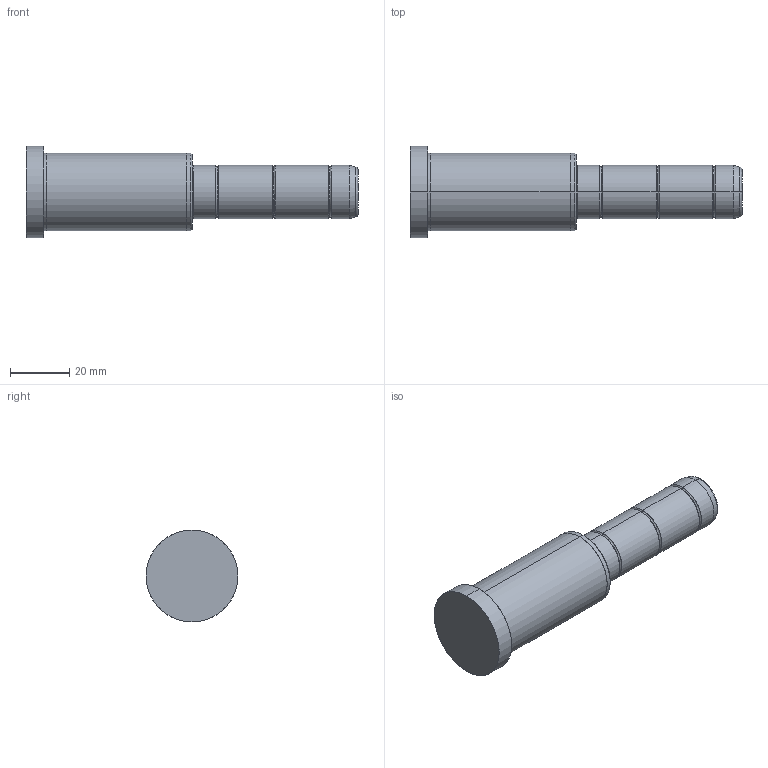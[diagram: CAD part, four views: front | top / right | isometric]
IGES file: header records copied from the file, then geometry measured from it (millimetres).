
Start section: SolidWorks IGES file using analytic representation for surfaces
Global section: file name: C:\Documents and Settings\kalite-mail\Desktop\IGS\D02\18\D02 - 18x56x56.IGS; native system: SolidWorks 2008; preprocessor: SolidWorks 2008; author: kalite-mail; date: 080616.153119; units: millimetre
Bounding box: 112 x 31 x 31 mm (x, y, z)
Surface area: 9343.2 mm2 (no closed solid volume)
Topology: 0 solids, 0 shells, 42 faces, 528 edges, 528 vertices
Faces by surface type: bspline 22, revolution 20
